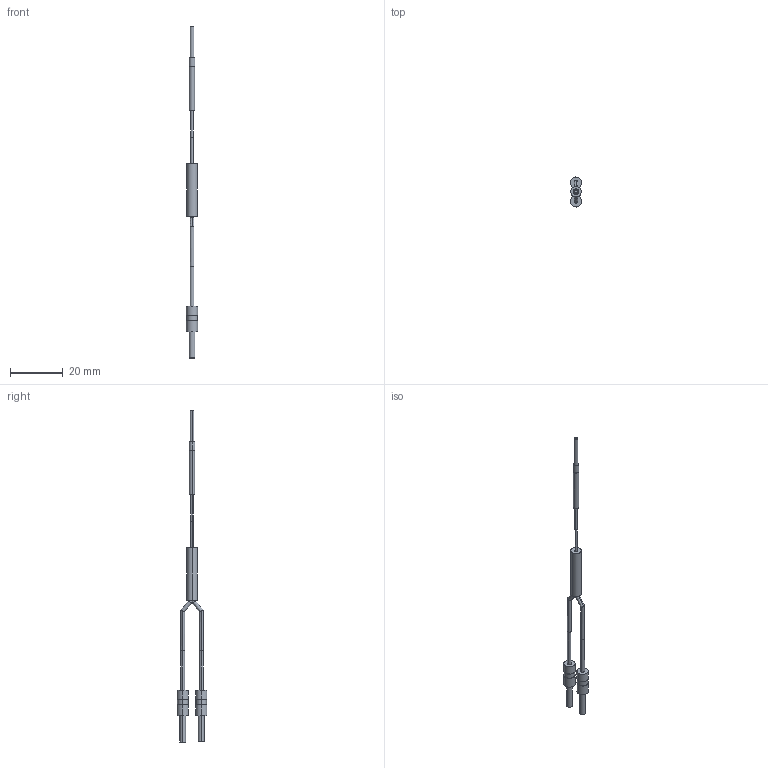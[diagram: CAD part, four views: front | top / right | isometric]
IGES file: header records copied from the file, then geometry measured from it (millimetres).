
Start section: SolidWorks IGES FILE using analytic representation for surfaces
Global section: file name: C:\Documents and Settings\yk0651\デスクトップ\3D_catalog_050904\0_IGES\FD-P2.IGS; native system: SolidWorks 2004 by SolidWorks Corporation; preprocessor: Version 5.3; author: yk0651; date: 050904.191105; units: millimetre
Bounding box: 4.33 x 11.33 x 125.5 mm (x, y, z)
Volume: 829.2 mm3; surface area: 1338.8 mm2
Topology: 5 solids, 5 shells, 70 faces, 134 edges, 88 vertices
Faces by surface type: revolution 46, plane 24
